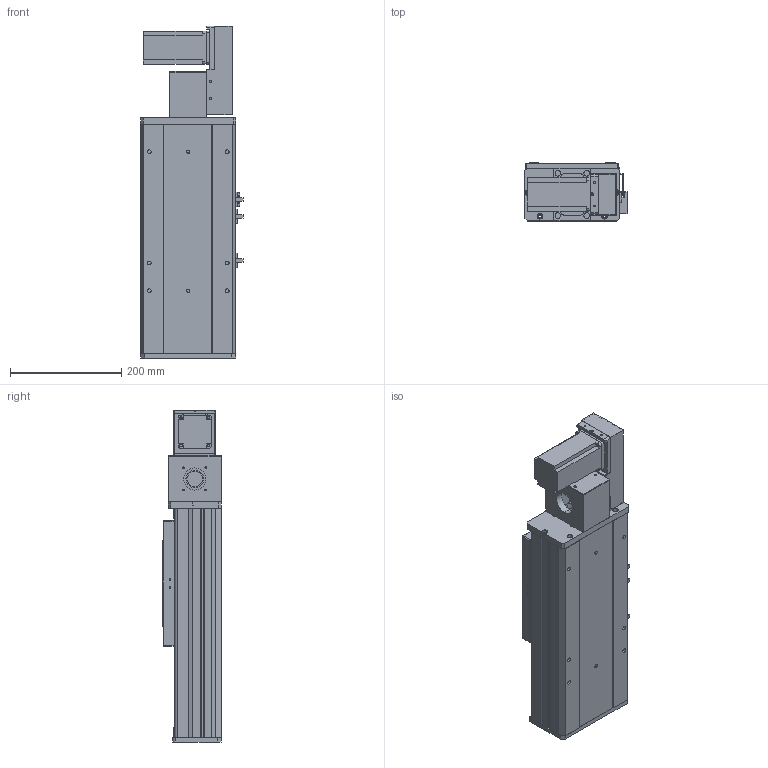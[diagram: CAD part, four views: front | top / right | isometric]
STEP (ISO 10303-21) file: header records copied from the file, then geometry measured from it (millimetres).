
FILE_DESCRIPTION (( 'STEP AP203' ), '1' );
FILE_NAME ('Y170CB-D105-S100-BR-P400W.STEP', '2020-02-19T08:32:45', ( '微软用户' ), ( '微软中国' ), 'SwSTEP 2.0', 'SolidWorks 2017', '' );
FILE_SCHEMA (( 'CONFIG_CONTROL_DESIGN' ));
Length unit declared in the file: millimetre
Products named in the file (17): 0B-萇儂楊擘啣; san松下电机400不带刹车----; Y70俋欶BR----; 70CB-掛极-; --70CB --喘謫眊楊擘啣-; 70CB-耜裔啣-; 70C--詩湍揤踡え-; 70CB--耜裔; 70C-雄赽釱-奻-; 0C--雄赽釱俋欶-170; 70CB-詩湍--; Y100-135俋离換覜ん--; Y170CB-陔俋离換覜結え---; 70B喘謫眊----; Y170CB-D105-S100-BR-P400W; 17B-耜蚾蟀諉啣----; B-源倛裔啣
Assembly tree (20 placements, depth 2):
  Y170CB-D105-S100-BR-P400W
    70B喘謫眊----
    B-源倛裔啣
    17B-耜蚾蟀諉啣----
    0B-萇儂楊擘啣
    san松下电机400不带刹车----
    Y70俋欶BR----
    70CB-掛极-
    --70CB --喘謫眊楊擘啣-
    70CB-耜裔啣-  x2
    70C--詩湍揤踡え-  x2
    70CB--耜裔
    70C-雄赽釱-奻-
    0C--雄赽釱俋欶-170
    70CB-詩湍--
    Y100-135俋离換覜ん--  x3
    Y170CB-陔俋离換覜結え---
Bounding box: 183.5 x 107 x 597 mm (x, y, z)
Volume: 2988175 mm3; surface area: 1043616.2 mm2
Topology: 20 solids, 20 shells, 957 faces, 2546 edges, 1688 vertices
Faces by surface type: cylinder 472, plane 461, cone 24
Entity records: 30074 total; most frequent: CARTESIAN_POINT 5446, DIRECTION 4903, ORIENTED_EDGE 4574, EDGE_CURVE 2287, AXIS2_PLACEMENT_3D 1777, VERTEX_POINT 1518, LINE 1349, VECTOR 1349
